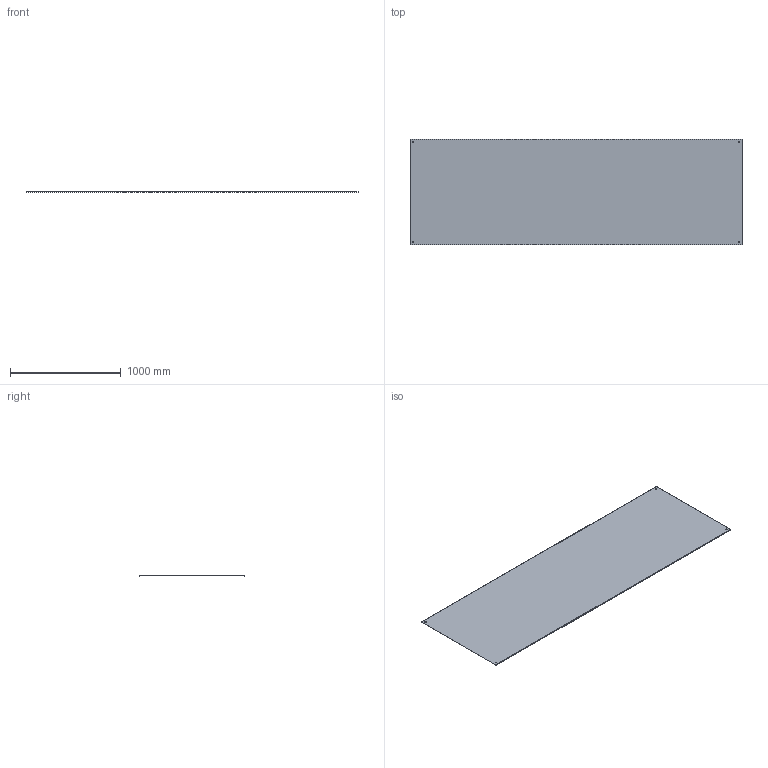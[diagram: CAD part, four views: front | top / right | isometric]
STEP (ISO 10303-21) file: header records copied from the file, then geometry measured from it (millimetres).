
FILE_DESCRIPTION(/* description */ ('','CAx-IF Rec.Pracs.---Representation and Presentation of Product Manufacturing Information (PMI)---4.0---2014-10-13'),/* implementation_level */ '2;1');
FILE_NAME(/* name */ 'Eurostrut_ECLSC-900_Straight Cover for Cable Ladder ECL.step',/* time_stamp */ '2026-09-08T14:27:59+02:00',/* author */ (''),/* organization */ (''),/* preprocessor_version */ 'ST-DEVELOPER v20.1',/* originating_system */ 'Autodesk Revit 2027 27.2.0.39',/* authorisation */ '');
FILE_SCHEMA (('AP242_MANAGED_MODEL_BASED_3D_ENGINEERING_MIM_LF { 1 0 10303 442 2 1 4 }'));
Length unit declared in the file: millimetre
Products named in the file (2): TopLevelAssembly; Extrusion
Assembly tree (1 placements, depth 2):
  TopLevelAssembly
    Extrusion
Bounding box: 3000 x 950 x 9 mm (x, y, z)
Volume: 4342028.8 mm3; surface area: 5801455.2 mm2
Topology: 1 solids, 1 shells, 18 faces, 48 edges, 32 vertices
Faces by surface type: plane 10, cylinder 8
Entity records: 618 total; most frequent: DIRECTION 106, CARTESIAN_POINT 101, ORIENTED_EDGE 96, EDGE_CURVE 48, AXIS2_PLACEMENT_3D 37, LINE 32, VECTOR 32, VERTEX_POINT 32
